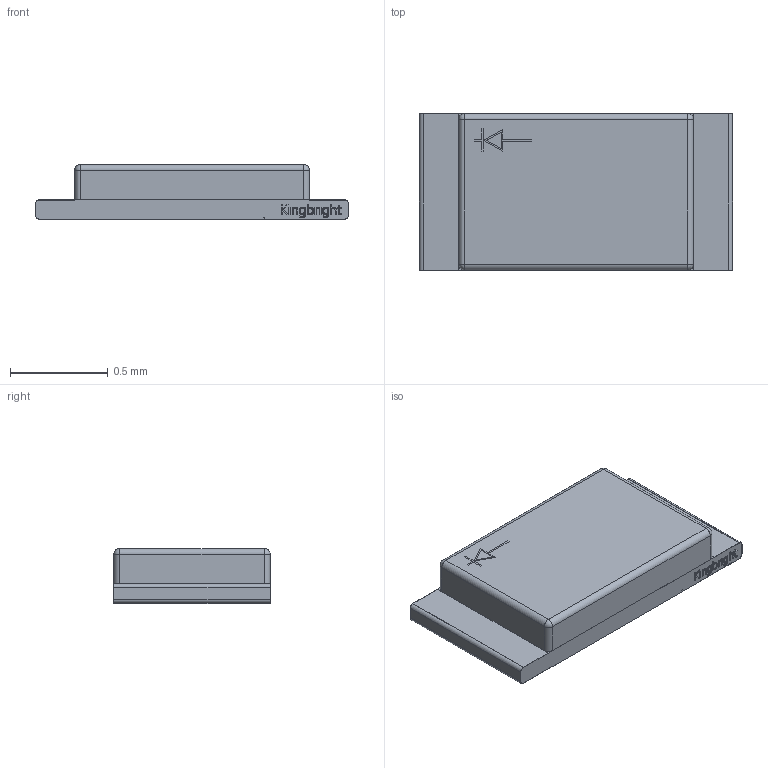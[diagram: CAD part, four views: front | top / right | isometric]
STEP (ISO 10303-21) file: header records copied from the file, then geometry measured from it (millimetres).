
FILE_DESCRIPTION(/* description */ (''),/* implementation_level */ '2;1');
FILE_NAME(/* name */ 'C:\Users\k\Desktop\3.stp',/* time_stamp */ '2021-05-06T13:50:47+02:00',/* author */ ('k'),/* organization */ (''),/* preprocessor_version */ 'ST-DEVELOPER v15.6',/* originating_system */ 'Autodesk Inventor 2015',/* authorisation */ '');
FILE_SCHEMA (('AUTOMOTIVE_DESIGN { 1 0 10303 214 3 1 1 }'));
Products named in the file (8): 1; 2; 3; APG1608; Diod logo; Kingbright
Bounding box: 1.6 x 0.8 x 0.28 mm (x, y, z)
Volume: 0.3 mm3; surface area: 8 mm2
Topology: 17 solids, 17 shells, 511 faces, 1335 edges, 886 vertices
Faces by surface type: plane 315, bspline 165, cylinder 27, sphere 4
Entity records: 21428 total; most frequent: CARTESIAN_POINT 9703, ORIENTED_EDGE 2670, DIRECTION 1796, EDGE_CURVE 1335, LINE 950, VECTOR 950, VERTEX_POINT 886, EDGE_LOOP 547
